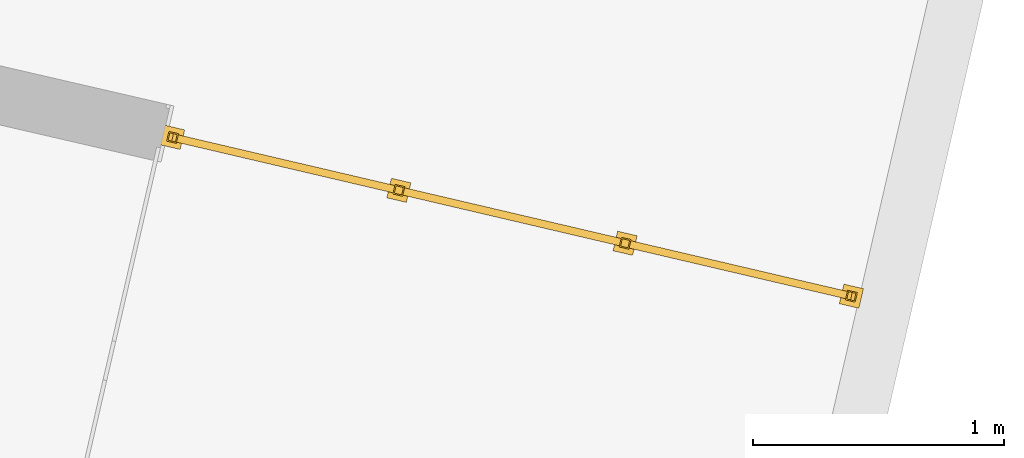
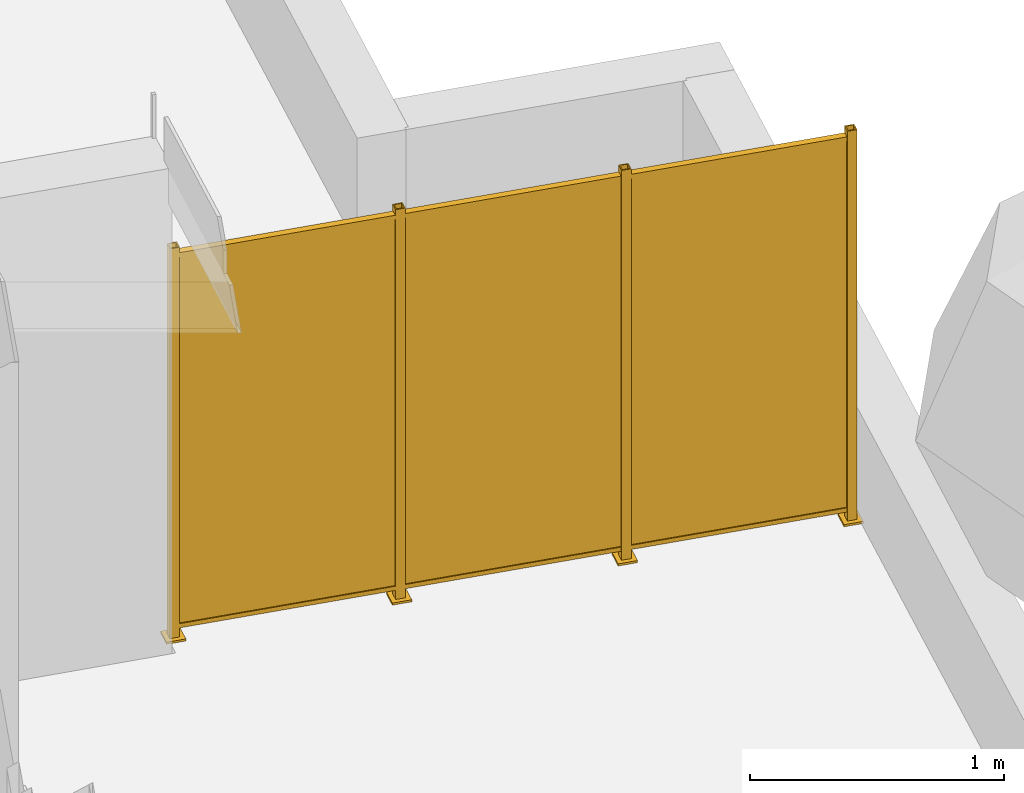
# One storey, part 76 of 119: 1 railing.
"""IFC2X3 building model written with IfcOpenShell, lengths in metres."""

from ifc_helpers import new_model, entity, si_unit, converted_unit, derived_unit, money_unit, direction, frame, origin_with_axes, place, context, subcontext, project, spatial, faceted_brep, material, material_list, type_object, element, save


model = new_model("IFC2X3")

# Units and contexts
model_context = context("Model", 3, precision=1e-05, world=origin_with_axes(), true_north=direction((0.0, 1.0)))
body_context = subcontext(model_context, "Body", "Model", "MODEL_VIEW")
ifc_project = project(units=[si_unit("LENGTHUNIT", "METRE"), si_unit("AREAUNIT", "SQUARE_METRE"), si_unit("VOLUMEUNIT", "CUBIC_METRE"), converted_unit("PLANEANGLEUNIT", "DEGREE", entity("IfcPlaneAngleMeasure", 0.0174532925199), si_unit("PLANEANGLEUNIT", "RADIAN"), dimensions=[0, 0, 0, 0, 0, 0, 0]), si_unit("SOLIDANGLEUNIT", "STERADIAN"), money_unit("EUR"), converted_unit("TIMEUNIT", "Year", entity("IfcTimeMeasure", 31556926.0), si_unit("TIMEUNIT", "SECOND"), dimensions=[0, 0, 1, 0, 0, 0, 0]), si_unit("MASSUNIT", "GRAM", prefix="KILO"), si_unit("THERMODYNAMICTEMPERATUREUNIT", "DEGREE_CELSIUS"), si_unit("LUMINOUSINTENSITYUNIT", "LUMEN"), si_unit("ENERGYUNIT", "JOULE", prefix="MEGA"), derived_unit("THERMALCONDUCTANCEUNIT", [(si_unit("POWERUNIT", "WATT"), 1), (si_unit("LENGTHUNIT", "METRE"), -1), (si_unit("THERMODYNAMICTEMPERATUREUNIT", "KELVIN"), -1)]), derived_unit("SPECIFICHEATCAPACITYUNIT", [(si_unit("ENERGYUNIT", "JOULE"), 1), (si_unit("MASSUNIT", "GRAM", prefix="KILO"), -1), (si_unit("THERMODYNAMICTEMPERATUREUNIT", "KELVIN"), -1)]), derived_unit("MASSDENSITYUNIT", [(si_unit("MASSUNIT", "GRAM", prefix="KILO"), 1), (si_unit("VOLUMEUNIT", "CUBIC_METRE"), -1)])], contexts=[model_context])

# Site, building, storey
site_placement = place(None, origin_with_axes())
site = spatial("IfcSite", under=ifc_project, at=site_placement, Name="Site", CompositionType="ELEMENT")
building_placement = place(site_placement, origin_with_axes())
building = spatial("IfcBuilding", under=site, at=building_placement, Name="Bâtiment", CompositionType="ELEMENT")
storey_placement = place(building_placement, origin_with_axes())
storey = spatial("IfcBuildingStorey", under=building, at=storey_placement, Name="Rez-de-chaussée", CompositionType="ELEMENT", Elevation=0.0)

# Railing
ifc_material_1 = material(Name="Métal - Acier")
ifc_material_2 = material(Name="Métal - Acier inoxidable")
ifc_material_3 = material(Name="Vitrage")
ifc_material_list = material_list([ifc_material_1, ifc_material_1, ifc_material_2, ifc_material_3, ifc_material_1, ifc_material_2, ifc_material_3, ifc_material_1, ifc_material_2, ifc_material_3])
railing_type = type_object("IfcRailingType", Name="Type de garde-corps", PredefinedType="NOTDEFINED")
railing_placement = place(storey_placement, frame((-1.21141172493, 2.26080879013, -0.0199999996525), z_axis=(0.0, 0.0, 1.0), x_axis=(1.0, 0.0, 0.0)))
element("IfcRailing", 1, at=railing_placement, inside=storey, type_object=railing_type, material=ifc_material_list, Name="Pare-vue acier laqué+verre dépoli H=190", PredefinedType="NOTDEFINED", context=body_context, shape_type="Brep", body=[
    faceted_brep([(0.0180227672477, 0.0111883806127, 0.21), (0.0111883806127, -0.0180227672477, 0.21), (0.0111883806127, -0.0180227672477, 2.08), (0.0180227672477, 0.0111883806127, 2.08), (0.0240303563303, 0.014917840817, 0.21), (0.014917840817, -0.0240303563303, 0.21), (-0.0240303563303, -0.014917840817, 0.21), (-0.014917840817, 0.0240303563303, 0.21), (-0.0180227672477, -0.0111883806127, 0.21), (-0.0111883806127, 0.0180227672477, 0.21), (-0.0180227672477, -0.0111883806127, 2.08), (-0.0240303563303, -0.014917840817, 2.08), (0.014917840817, -0.0240303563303, 2.08), (0.0240303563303, 0.014917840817, 2.08), (-0.014917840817, 0.0240303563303, 2.08), (-0.0111883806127, 0.0180227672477, 2.08)], [[[0, 1, 2, 3]], [[4, 5, 6, 7], [8, 1, 0, 9]], [[1, 8, 10, 2]], [[11, 12, 13, 14], [3, 2, 10, 15]], [[9, 0, 3, 15]], [[5, 4, 13, 12]], [[6, 5, 12, 11]], [[7, 6, 11, 14]], [[4, 7, 14, 13]], [[8, 9, 15, 10]]]),
    faceted_brep([(-0.0298356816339, 0.0480607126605, 0.2), (-0.0298356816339, 0.0480607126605, 0.21), (0.0480607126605, 0.0298356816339, 0.21), (0.0480607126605, 0.0298356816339, 0.2), (-0.0480607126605, -0.0298356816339, 0.2), (-0.0480607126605, -0.0298356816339, 0.21), (0.0298356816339, -0.0480607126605, 0.21), (0.0298356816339, -0.0480607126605, 0.2)], [[[0, 1, 2, 3]], [[4, 5, 1, 0]], [[1, 5, 6, 2]], [[3, 2, 6, 7]], [[0, 3, 7, 4]], [[7, 6, 5, 4]]]),
    faceted_brep([(2.72659364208, -0.622522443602, 0.21), (2.71975925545, -0.651733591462, 0.21), (2.71975925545, -0.651733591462, 2.08), (2.72659364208, -0.622522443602, 2.08), (2.73260123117, -0.618792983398, 0.21), (2.72348871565, -0.657741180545, 0.21), (2.68454051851, -0.648628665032, 0.21), (2.69365303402, -0.609680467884, 0.21), (2.69054810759, -0.644899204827, 0.21), (2.69738249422, -0.615688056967, 0.21), (2.69054810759, -0.644899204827, 2.08), (2.68454051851, -0.648628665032, 2.08), (2.72348871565, -0.657741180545, 2.08), (2.73260123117, -0.618792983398, 2.08), (2.69365303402, -0.609680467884, 2.08), (2.69738249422, -0.615688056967, 2.08)], [[[0, 1, 2, 3]], [[4, 5, 6, 7], [8, 1, 0, 9]], [[1, 8, 10, 2]], [[11, 12, 13, 14], [3, 2, 10, 15]], [[9, 0, 3, 15]], [[5, 4, 13, 12]], [[6, 5, 12, 11]], [[7, 6, 11, 14]], [[4, 7, 14, 13]], [[8, 9, 15, 10]]]),
    faceted_brep([(2.6787351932, -0.585650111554, 0.2), (2.6787351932, -0.585650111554, 0.21), (2.7566315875, -0.603875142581, 0.21), (2.7566315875, -0.603875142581, 0.2), (2.66051016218, -0.663546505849, 0.2), (2.66051016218, -0.663546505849, 0.21), (2.73840655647, -0.681771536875, 0.21), (2.73840655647, -0.681771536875, 0.2)], [[[0, 1, 2, 3]], [[4, 5, 1, 0]], [[1, 5, 6, 2]], [[3, 2, 6, 7]], [[0, 3, 7, 4]], [[7, 6, 5, 4]]]),
    faceted_brep([(0.906274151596, -0.196631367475, 0.25), (0.00341719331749, 0.0146055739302, 0.25), (0.00341719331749, 0.0146055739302, 2.05), (0.906274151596, -0.196631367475, 2.05), (0.0228912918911, 0.0100493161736, 2.03), (0.0228912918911, 0.0100493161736, 0.27), (0.886800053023, -0.192075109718, 0.27), (0.886800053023, -0.192075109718, 2.03), (-0.00341719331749, -0.0146055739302, 0.25), (0.899439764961, -0.225842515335, 0.25), (-0.00341719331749, -0.0146055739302, 2.05), (0.899439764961, -0.225842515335, 2.05), (0.0160569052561, -0.0191618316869, 0.27), (0.0160569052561, -0.0191618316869, 2.03), (0.879965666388, -0.221286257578, 0.27), (0.879965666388, -0.221286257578, 2.03)], [[[0, 1, 2, 3], [4, 5, 6, 7]], [[8, 1, 0, 9]], [[10, 2, 1, 8]], [[3, 2, 10, 11]], [[0, 3, 11, 9]], [[12, 5, 4, 13]], [[14, 6, 5, 12]], [[7, 6, 14, 15]], [[4, 7, 15, 13]], [[10, 8, 9, 11], [14, 12, 13, 15]]]),
    faceted_brep([(0.885660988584, -0.196943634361, 0.27), (0.0217522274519, 0.00518079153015, 0.27), (0.0217522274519, 0.00518079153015, 2.03), (0.885660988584, -0.196943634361, 2.03), (0.0171959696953, -0.0142933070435, 0.27), (0.881104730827, -0.216417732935, 0.27), (0.0171959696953, -0.0142933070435, 2.03), (0.881104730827, -0.216417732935, 2.03)], [[[0, 1, 2, 3]], [[4, 1, 0, 5]], [[6, 2, 1, 4]], [[3, 2, 6, 7]], [[0, 3, 7, 5]], [[6, 4, 5, 7]]]),
    faceted_brep([(0.920879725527, -0.200048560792, 0.21), (0.914045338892, -0.229259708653, 0.21), (0.914045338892, -0.229259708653, 2.08), (0.920879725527, -0.200048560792, 2.08), (0.926887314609, -0.196319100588, 0.21), (0.917774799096, -0.235267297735, 0.21), (0.878826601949, -0.226154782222, 0.21), (0.887939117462, -0.187206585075, 0.21), (0.884834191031, -0.222425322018, 0.21), (0.891668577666, -0.193214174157, 0.21), (0.884834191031, -0.222425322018, 2.08), (0.878826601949, -0.226154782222, 2.08), (0.917774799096, -0.235267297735, 2.08), (0.926887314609, -0.196319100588, 2.08), (0.887939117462, -0.187206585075, 2.08), (0.891668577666, -0.193214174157, 2.08)], [[[0, 1, 2, 3]], [[4, 5, 6, 7], [8, 1, 0, 9]], [[1, 8, 10, 2]], [[11, 12, 13, 14], [3, 2, 10, 15]], [[9, 0, 3, 15]], [[5, 4, 13, 12]], [[6, 5, 12, 11]], [[7, 6, 11, 14]], [[4, 7, 14, 13]], [[8, 9, 15, 10]]]),
    faceted_brep([(0.873021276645, -0.163176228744, 0.2), (0.873021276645, -0.163176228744, 0.21), (0.950917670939, -0.181401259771, 0.21), (0.950917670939, -0.181401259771, 0.2), (0.854796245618, -0.241072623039, 0.2), (0.854796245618, -0.241072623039, 0.21), (0.932692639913, -0.259297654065, 0.21), (0.932692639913, -0.259297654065, 0.2)], [[[0, 1, 2, 3]], [[4, 5, 1, 0]], [[1, 5, 6, 2]], [[3, 2, 6, 7]], [[0, 3, 7, 4]], [[7, 6, 5, 4]]]),
    faceted_brep([(1.80913110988, -0.40786830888, 0.25), (0.906274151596, -0.196631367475, 0.25), (0.906274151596, -0.196631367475, 2.05), (1.80913110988, -0.40786830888, 2.05), (0.92574825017, -0.201187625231, 2.03), (0.92574825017, -0.201187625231, 0.27), (1.7896570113, -0.403312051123, 0.27), (1.7896570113, -0.403312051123, 2.03), (0.899439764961, -0.225842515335, 0.25), (1.80229672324, -0.43707945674, 0.25), (0.899439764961, -0.225842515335, 2.05), (1.80229672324, -0.43707945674, 2.05), (0.918913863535, -0.230398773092, 0.27), (0.918913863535, -0.230398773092, 2.03), (1.78282262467, -0.432523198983, 0.27), (1.78282262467, -0.432523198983, 2.03)], [[[0, 1, 2, 3], [4, 5, 6, 7]], [[8, 1, 0, 9]], [[10, 2, 1, 8]], [[3, 2, 10, 11]], [[0, 3, 11, 9]], [[12, 5, 4, 13]], [[14, 6, 5, 12]], [[7, 6, 14, 15]], [[4, 7, 15, 13]], [[10, 8, 9, 11], [14, 12, 13, 15]]]),
    faceted_brep([(1.78851794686, -0.408180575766, 0.27), (0.924609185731, -0.206056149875, 0.27), (0.924609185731, -0.206056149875, 2.03), (1.78851794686, -0.408180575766, 2.03), (0.920052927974, -0.225530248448, 0.27), (1.78396168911, -0.42765467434, 0.27), (0.920052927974, -0.225530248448, 2.03), (1.78396168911, -0.42765467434, 2.03)], [[[0, 1, 2, 3]], [[4, 1, 0, 5]], [[6, 2, 1, 4]], [[3, 2, 6, 7]], [[0, 3, 7, 5]], [[6, 4, 5, 7]]]),
    faceted_brep([(1.82373668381, -0.411285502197, 0.21), (1.81690229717, -0.440496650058, 0.21), (1.81690229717, -0.440496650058, 2.08), (1.82373668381, -0.411285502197, 2.08), (1.82974427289, -0.407556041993, 0.21), (1.82063175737, -0.44650423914, 0.21), (1.78168356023, -0.437391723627, 0.21), (1.79079607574, -0.39844352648, 0.21), (1.78769114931, -0.433662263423, 0.21), (1.79452553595, -0.404451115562, 0.21), (1.78769114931, -0.433662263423, 2.08), (1.78168356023, -0.437391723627, 2.08), (1.82063175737, -0.44650423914, 2.08), (1.82974427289, -0.407556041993, 2.08), (1.79079607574, -0.39844352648, 2.08), (1.79452553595, -0.404451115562, 2.08)], [[[0, 1, 2, 3]], [[4, 5, 6, 7], [8, 1, 0, 9]], [[1, 8, 10, 2]], [[11, 12, 13, 14], [3, 2, 10, 15]], [[9, 0, 3, 15]], [[5, 4, 13, 12]], [[6, 5, 12, 11]], [[7, 6, 11, 14]], [[4, 7, 14, 13]], [[8, 9, 15, 10]]]),
    faceted_brep([(1.77587823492, -0.374413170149, 0.2), (1.77587823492, -0.374413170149, 0.21), (1.85377462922, -0.392638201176, 0.21), (1.85377462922, -0.392638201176, 0.2), (1.7576532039, -0.452309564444, 0.2), (1.7576532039, -0.452309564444, 0.21), (1.83554959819, -0.47053459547, 0.21), (1.83554959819, -0.47053459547, 0.2)], [[[0, 1, 2, 3]], [[4, 5, 1, 0]], [[1, 5, 6, 2]], [[3, 2, 6, 7]], [[0, 3, 7, 4]], [[7, 6, 5, 4]]]),
    faceted_brep([(2.71198806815, -0.619105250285, 0.25), (1.80913110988, -0.40786830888, 0.25), (1.80913110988, -0.40786830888, 2.05), (2.71198806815, -0.619105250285, 2.05), (1.82860520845, -0.412424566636, 2.03), (1.82860520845, -0.412424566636, 0.27), (2.69251396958, -0.614548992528, 0.27), (2.69251396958, -0.614548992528, 2.03), (1.80229672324, -0.43707945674, 0.25), (2.70515368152, -0.648316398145, 0.25), (1.80229672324, -0.43707945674, 2.05), (2.70515368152, -0.648316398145, 2.05), (1.82177082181, -0.441635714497, 0.27), (1.82177082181, -0.441635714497, 2.03), (2.68567958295, -0.643760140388, 0.27), (2.68567958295, -0.643760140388, 2.03)], [[[0, 1, 2, 3], [4, 5, 6, 7]], [[8, 1, 0, 9]], [[10, 2, 1, 8]], [[3, 2, 10, 11]], [[0, 3, 11, 9]], [[12, 5, 4, 13]], [[14, 6, 5, 12]], [[7, 6, 14, 15]], [[4, 7, 15, 13]], [[10, 8, 9, 11], [14, 12, 13, 15]]]),
    faceted_brep([(2.69137490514, -0.619417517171, 0.27), (1.82746614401, -0.41729309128, 0.27), (1.82746614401, -0.41729309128, 2.03), (2.69137490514, -0.619417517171, 2.03), (1.82290988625, -0.436767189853, 0.27), (2.68681864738, -0.638891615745, 0.27), (1.82290988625, -0.436767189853, 2.03), (2.68681864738, -0.638891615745, 2.03)], [[[0, 1, 2, 3]], [[4, 1, 0, 5]], [[6, 2, 1, 4]], [[3, 2, 6, 7]], [[0, 3, 7, 5]], [[6, 4, 5, 7]]]),
])

save(model, "model.ifc")
